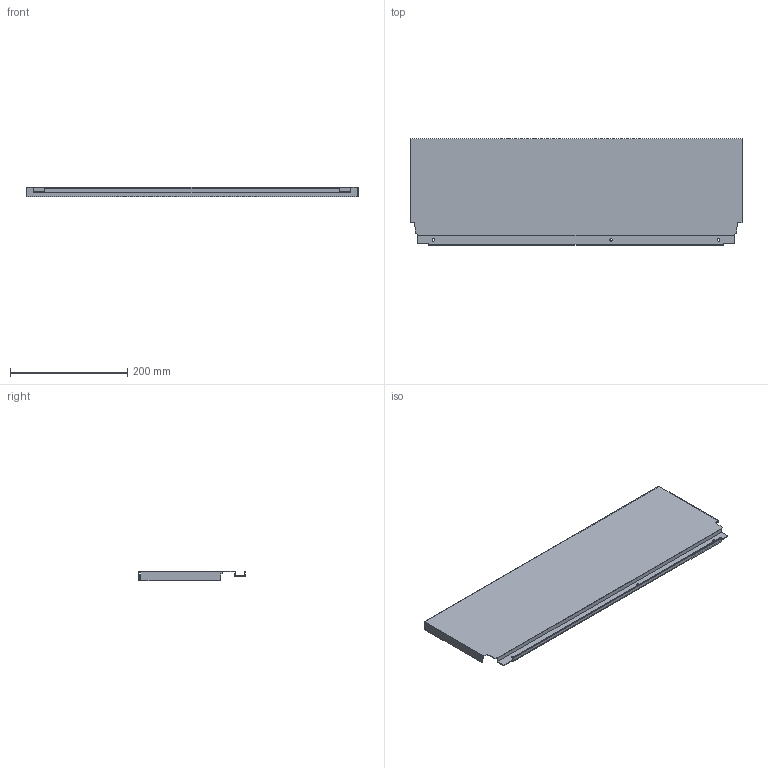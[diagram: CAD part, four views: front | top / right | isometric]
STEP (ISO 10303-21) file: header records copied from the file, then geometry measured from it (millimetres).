
FILE_DESCRIPTION (( 'STEP AP214' ), '1' );
FILE_NAME ('_DWD_XP Stahlrückwand_H182_KAB650_S16.step', '2010-07-08T12:57:34', ( 'grass' ), ( '' ), 'SwSTEP 2.0', 'SolidWorks 2010', '' );
FILE_SCHEMA (( 'AUTOMOTIVE_DESIGN' ));
Length unit declared in the file: millimetre
Products named in the file (1): _DWD_XP Stahlrückwand_H182_KAB650_S16
Bounding box: 567 x 182.49 x 16 mm (x, y, z)
Volume: 106826.9 mm3; surface area: 247681.3 mm2
Topology: 1 solids, 1 shells, 46 faces, 132 edges, 88 vertices
Faces by surface type: plane 40, cylinder 6
Entity records: 1534 total; most frequent: CARTESIAN_POINT 267, ORIENTED_EDGE 264, DIRECTION 238, EDGE_CURVE 132, VECTOR 120, LINE 120, VERTEX_POINT 88, AXIS2_PLACEMENT_3D 59
